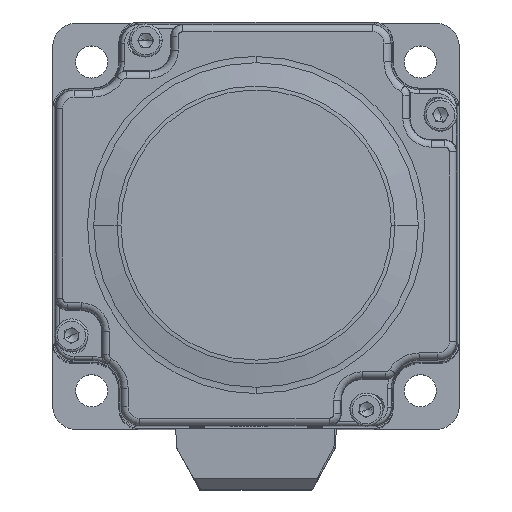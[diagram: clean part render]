
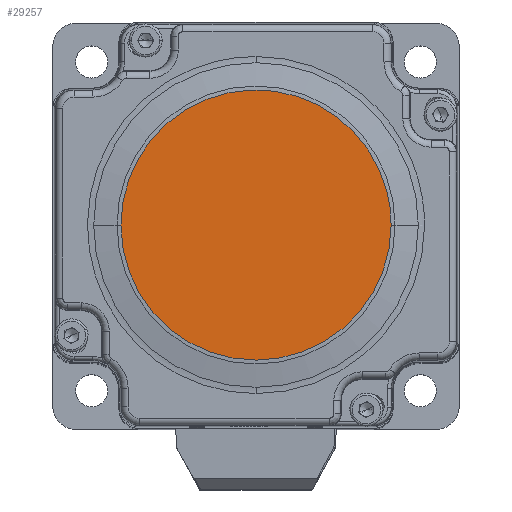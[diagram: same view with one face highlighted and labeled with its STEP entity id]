
A CAD part, top view. The second image highlights one B-rep face of the part: STEP entity #29257.
In plain terms, the highlighted planar face has unit normal (0, 0, 1).
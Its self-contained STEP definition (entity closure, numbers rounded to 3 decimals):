
#695 = DIRECTION ( 'NONE',  ( 0., -1., 0. ) ) ;
#906 = EDGE_CURVE ( 'NONE', #13229, #13391, #27476, .T. ) ;
#1002 = CARTESIAN_POINT ( 'NONE',  ( -27.675, 7.397, 38.074 ) ) ;
#1195 = CARTESIAN_POINT ( 'NONE',  ( -28.221, 4.65, 38.074 ) ) ;
#1250 = CIRCLE ( 'NONE', #8649, 28.586 ) ;
#1317 = CARTESIAN_POINT ( 'NONE',  ( -28.494, 2.332, 38.074 ) ) ;
#1440 = CARTESIAN_POINT ( 'NONE',  ( -28.546, 1.633, 38.074 ) ) ;
#1867 = CARTESIAN_POINT ( 'NONE',  ( -28.357, 3.725, 38.074 ) ) ;
#1994 = EDGE_CURVE ( 'NONE', #19839, #30567, #13694, .T. ) ;
#2089 = CARTESIAN_POINT ( 'NONE',  ( -28.576, 0.817, 38.074 ) ) ;
#2421 = CARTESIAN_POINT ( 'NONE',  ( -28.583, 0.408, 38.074 ) ) ;
#2825 = CARTESIAN_POINT ( 'NONE',  ( -28.585, 0.204, 38.074 ) ) ;
#2923 = CARTESIAN_POINT ( 'NONE',  ( -28.586, 0.051, 38.074 ) ) ;
#2993 = CARTESIAN_POINT ( 'NONE',  ( -28.586, 0., 38.074 ) ) ;
#3054 = AXIS2_PLACEMENT_3D ( 'NONE', #24357, #18462, #695 ) ;
#3114 = CARTESIAN_POINT ( 'NONE',  ( -28.586, 0.015, 38.074 ) ) ;
#3187 = CARTESIAN_POINT ( 'NONE',  ( -28.586, 0.005, 38.074 ) ) ;
#3197 = EDGE_CURVE ( 'NONE', #30567, #13229, #1250, .T. ) ;
#3459 = CARTESIAN_POINT ( 'NONE',  ( -28.586, 0.029, 38.074 ) ) ;
#3636 = DIRECTION ( 'NONE',  ( 0., 0., -1. ) ) ;
#3822 = ORIENTED_EDGE ( 'NONE', *, *, #3197, .F. ) ;
#4873 = EDGE_LOOP ( 'NONE', ( #25336, #33175, #3822, #18683 ) ) ;
#6839 = FACE_OUTER_BOUND ( 'NONE', #4873, .T. ) ;
#8649 = AXIS2_PLACEMENT_3D ( 'NONE', #21444, #3636, #24468 ) ;
#8804 = CARTESIAN_POINT ( 'NONE',  ( -28.586, 0.102, 38.074 ) ) ;
#12064 = B_SPLINE_CURVE_WITH_KNOTS ( 'NONE', 3,
 ( #37594, #28772, #13823, #34750 ),
 .UNSPECIFIED., .F., .F.,
 ( 4, 4 ),
 ( 0., 0.003 ),
 .UNSPECIFIED. ) ;
#13229 = VERTEX_POINT ( 'NONE', #22704 ) ;
#13391 = VERTEX_POINT ( 'NONE', #36139 ) ;
#13694 = B_SPLINE_CURVE_WITH_KNOTS ( 'NONE', 3,
 ( #2993, #3187, #3114, #3459, #2923, #8804, #2825, #2421, #2089, #1440, #1317, #1867, #1195, #1002, #36601, #38558, #38512, #38429, #38356, #38308, #38259, #38227, #38169, #38120, #38092, #38045, #37974, #37918, #37845, #37790, #37747, #37661, #37616, #37596, #37545, #37495, #37117, #36988, #36931, #36852, #36802, #36718, #36674, #36347 ),
 .UNSPECIFIED., .F., .F.,
 ( 4, 2, 1, 1, 1, 1, 1, 1, 2, 2, 2, 2, 2, 2, 2, 2, 2, 2, 2, 2, 2, 2, 2, 2, 4 ),
 ( 0.003, 0.003, 0.003, 0.004, 0.005, 0.007, 0.011, 0.019, 0.034, 0.065, 0.128, 0.19, 0.252, 0.315, 0.377, 0.439, 0.501, 0.564, 0.626, 0.688, 0.751, 0.813, 0.875, 0.938, 1. ),
 .UNSPECIFIED. ) ;
#13823 = CARTESIAN_POINT ( 'NONE',  ( -28.586, -0.063, 38.074 ) ) ;
#13848 = AXIS2_PLACEMENT_3D ( 'NONE', #16952, #16815, #16781 ) ;
#16781 = DIRECTION ( 'NONE',  ( -1., 0., 0. ) ) ;
#16815 = DIRECTION ( 'NONE',  ( 0., 0., -1. ) ) ;
#16952 = CARTESIAN_POINT ( 'NONE',  ( 0., 0., 38.074 ) ) ;
#18462 = DIRECTION ( 'NONE',  ( 0., 0., -1. ) ) ;
#18683 = ORIENTED_EDGE ( 'NONE', *, *, #1994, .F. ) ;
#19839 = VERTEX_POINT ( 'NONE', #35046 ) ;
#21444 = CARTESIAN_POINT ( 'NONE',  ( 0., 0., 38.074 ) ) ;
#22704 = CARTESIAN_POINT ( 'NONE',  ( 28.586, 0., 38.074 ) ) ;
#24357 = CARTESIAN_POINT ( 'NONE',  ( 0., 0., 38.074 ) ) ;
#24468 = DIRECTION ( 'NONE',  ( -1., 0., 0. ) ) ;
#25336 = ORIENTED_EDGE ( 'NONE', *, *, #34860, .F. ) ;
#27476 = CIRCLE ( 'NONE', #13848, 28.586 ) ;
#28772 = CARTESIAN_POINT ( 'NONE',  ( -28.586, -0.123, 38.074 ) ) ;
#29257 = ADVANCED_FACE ( 'NONE', ( #6839 ), #30390, .F. ) ;
#30390 = PLANE ( 'NONE',  #3054 ) ;
#30567 = VERTEX_POINT ( 'NONE', #32106 ) ;
#32106 = CARTESIAN_POINT ( 'NONE',  ( 28.585, 0.18, 38.074 ) ) ;
#33175 = ORIENTED_EDGE ( 'NONE', *, *, #906, .F. ) ;
#34750 = CARTESIAN_POINT ( 'NONE',  ( -28.586, 0., 38.074 ) ) ;
#34860 = EDGE_CURVE ( 'NONE', #13391, #19839, #12064, .T. ) ;
#35046 = CARTESIAN_POINT ( 'NONE',  ( -28.586, 0., 38.074 ) ) ;
#36139 = CARTESIAN_POINT ( 'NONE',  ( -28.585, -0.18, 38.074 ) ) ;
#36347 = CARTESIAN_POINT ( 'NONE',  ( 28.585, 0.18, 38.074 ) ) ;
#36601 = CARTESIAN_POINT ( 'NONE',  ( -27.132, 9.193, 38.074 ) ) ;
#36674 = CARTESIAN_POINT ( 'NONE',  ( 28.573, 2.047, 38.074 ) ) ;
#36718 = CARTESIAN_POINT ( 'NONE',  ( 28.378, 3.913, 38.074 ) ) ;
#36802 = CARTESIAN_POINT ( 'NONE',  ( 27.628, 7.572, 38.074 ) ) ;
#36852 = CARTESIAN_POINT ( 'NONE',  ( 27.073, 9.364, 38.074 ) ) ;
#36931 = CARTESIAN_POINT ( 'NONE',  ( 25.625, 12.806, 38.074 ) ) ;
#36988 = CARTESIAN_POINT ( 'NONE',  ( 24.732, 14.456, 38.074 ) ) ;
#37117 = CARTESIAN_POINT ( 'NONE',  ( 22.641, 17.55, 38.074 ) ) ;
#37495 = CARTESIAN_POINT ( 'NONE',  ( 21.444, 18.995, 38.074 ) ) ;
#37545 = CARTESIAN_POINT ( 'NONE',  ( 18.791, 21.623, 38.074 ) ) ;
#37594 = CARTESIAN_POINT ( 'NONE',  ( -28.585, -0.18, 38.074 ) ) ;
#37596 = CARTESIAN_POINT ( 'NONE',  ( 17.335, 22.807, 38.074 ) ) ;
#37616 = CARTESIAN_POINT ( 'NONE',  ( 14.221, 24.868, 38.074 ) ) ;
#37661 = CARTESIAN_POINT ( 'NONE',  ( 12.563, 25.745, 38.074 ) ) ;
#37747 = CARTESIAN_POINT ( 'NONE',  ( 9.107, 27.161, 38.074 ) ) ;
#37790 = CARTESIAN_POINT ( 'NONE',  ( 7.31, 27.699, 38.074 ) ) ;
#37845 = CARTESIAN_POINT ( 'NONE',  ( 3.645, 28.414, 38.074 ) ) ;
#37918 = CARTESIAN_POINT ( 'NONE',  ( 1.777, 28.592, 38.074 ) ) ;
#37974 = CARTESIAN_POINT ( 'NONE',  ( -1.957, 28.58, 38.074 ) ) ;
#38045 = CARTESIAN_POINT ( 'NONE',  ( -3.824, 28.391, 38.074 ) ) ;
#38092 = CARTESIAN_POINT ( 'NONE',  ( -7.485, 27.652, 38.074 ) ) ;
#38120 = CARTESIAN_POINT ( 'NONE',  ( -9.279, 27.103, 38.074 ) ) ;
#38169 = CARTESIAN_POINT ( 'NONE',  ( -12.725, 25.666, 38.074 ) ) ;
#38227 = CARTESIAN_POINT ( 'NONE',  ( -14.378, 24.778, 38.074 ) ) ;
#38259 = CARTESIAN_POINT ( 'NONE',  ( -17.479, 22.697, 38.074 ) ) ;
#38308 = CARTESIAN_POINT ( 'NONE',  ( -18.927, 21.504, 38.074 ) ) ;
#38356 = CARTESIAN_POINT ( 'NONE',  ( -21.564, 18.859, 38.074 ) ) ;
#38429 = CARTESIAN_POINT ( 'NONE',  ( -22.752, 17.407, 38.074 ) ) ;
#38512 = CARTESIAN_POINT ( 'NONE',  ( -24.823, 14.3, 38.074 ) ) ;
#38558 = CARTESIAN_POINT ( 'NONE',  ( -25.705, 12.644, 38.074 ) ) ;
